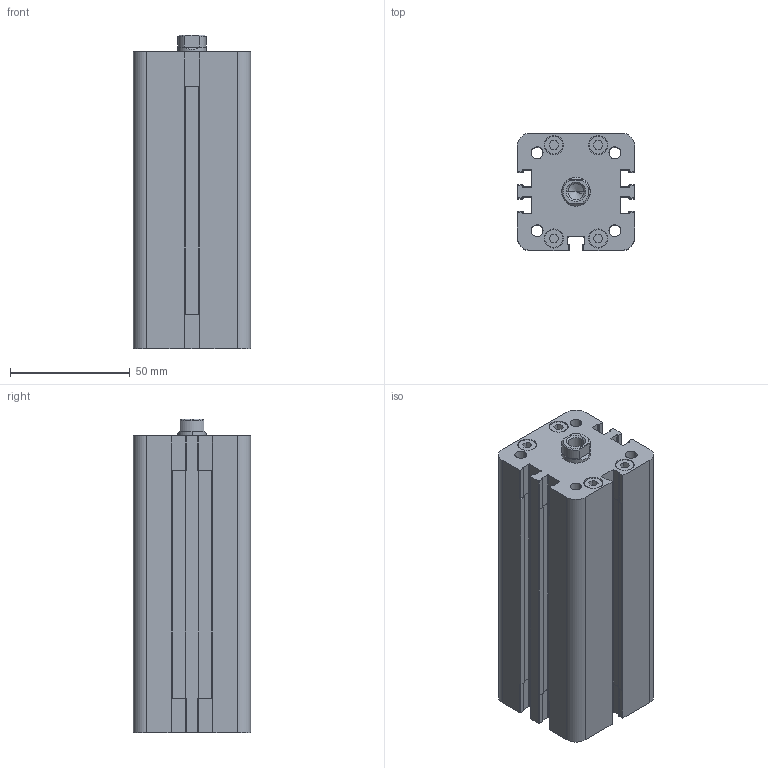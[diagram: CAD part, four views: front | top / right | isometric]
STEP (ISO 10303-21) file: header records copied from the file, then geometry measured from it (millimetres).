
FILE_DESCRIPTION (( 'STEP AP203' ), '1' );
FILE_NAME ('WF0320080A.step', '2013-04-22T06:56:47', ( '' ), ( '' ), 'SwSTEP 2.0', 'SolidWorks 2012', '' );
FILE_SCHEMA (( 'CONFIG_CONTROL_DESIGN' ));
Length unit declared in the file: millimetre
Products named in the file (1): WF0320080A
Bounding box: 49 x 49 x 131 mm (x, y, z)
Volume: 260207.9 mm3; surface area: 46951.1 mm2
Topology: 1 solids, 1 shells, 395 faces, 1086 edges, 720 vertices
Faces by surface type: plane 206, cylinder 179, cone 10
Entity records: 12838 total; most frequent: CARTESIAN_POINT 2374, DIRECTION 2217, ORIENTED_EDGE 2168, EDGE_CURVE 1084, AXIS2_PLACEMENT_3D 755, VERTEX_POINT 720, VECTOR 707, LINE 707
